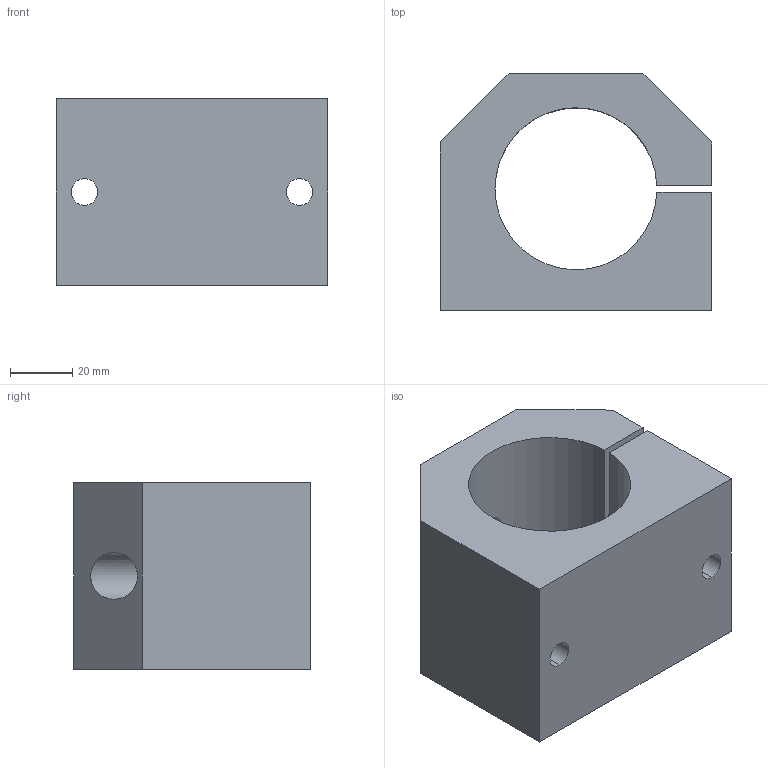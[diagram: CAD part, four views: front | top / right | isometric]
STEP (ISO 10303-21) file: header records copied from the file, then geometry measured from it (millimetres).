
FILE_DESCRIPTION (( 'STEP AP214' ), '1' );
FILE_NAME ('KGCE28 40.step', '2020-03-04T13:08:24', ( '' ), ( '' ), 'SwSTEP 2.0', 'SolidWorks 2019', '' );
FILE_SCHEMA (( 'AUTOMOTIVE_DESIGN' ));
Length unit declared in the file: millimetre
Products named in the file (1): KGCE28 40
Bounding box: 87 x 76 x 60 mm (x, y, z)
Volume: 216263.3 mm3; surface area: 43946.7 mm2
Topology: 1 solids, 1 shells, 41 faces, 104 edges, 66 vertices
Faces by surface type: cylinder 23, plane 14, cone 4
Entity records: 1444 total; most frequent: CARTESIAN_POINT 298, DIRECTION 210, ORIENTED_EDGE 200, EDGE_CURVE 100, AXIS2_PLACEMENT_3D 78, VERTEX_POINT 66, EDGE_LOOP 58, LINE 54
